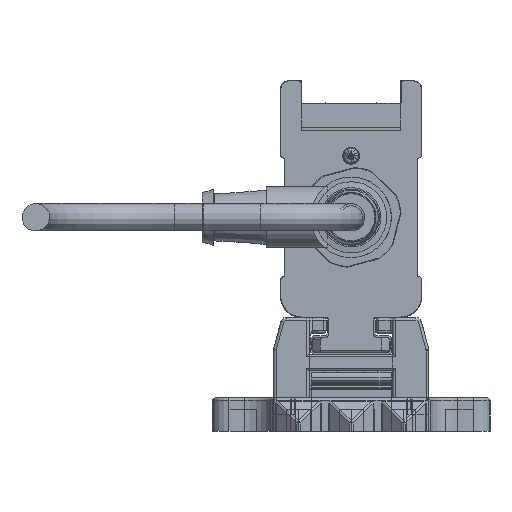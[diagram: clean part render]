
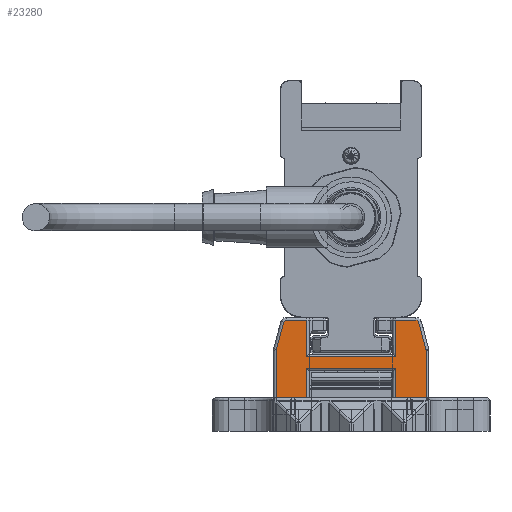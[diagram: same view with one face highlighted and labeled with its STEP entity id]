
A CAD part, left-side view. The second image highlights one B-rep face of the part: STEP entity #23280.
In plain terms, the highlighted planar face has unit normal (-1, 0, 0).
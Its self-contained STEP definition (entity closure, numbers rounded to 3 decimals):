
#23280=ADVANCED_FACE('', (#23290), #23300, .T.);
#141290=AXIS2_PLACEMENT_3D('Ax2Pl3d', #141300, #141310, #141320);
#141530=AXIS2_PLACEMENT_3D('Ax2Pl3d', #141540, #141550, #141560);
#146410=AXIS2_PLACEMENT_3D('Ax2Pl3d', #146420, #146430, #146440);
#151490=AXIS2_PLACEMENT_3D('Ax2Pl3d', #151500, #151510, #151520);
#161170=AXIS2_PLACEMENT_3D('Ax2Pl3d', #161180, #161190, #161200);
#583560=CARTESIAN_POINT('', (-747.669,-3606.345,
331.37));
#141300=CARTESIAN_POINT('HicPkt', (-747.669,-3605.379,
331.111));
#583570=CARTESIAN_POINT('', (-747.669,-3606.379,
331.111));
#583580=CARTESIAN_POINT('', (-747.669,-3605.037,
336.255));
#583600=CARTESIAN_POINT('', (-747.669,-3605.037,
336.255));
#583630=CARTESIAN_POINT('', (-747.669,-3604.554,
336.625));
#141540=CARTESIAN_POINT('HicPkt', (-747.669,-3604.554,
336.125));
#583850=CARTESIAN_POINT('', (-747.669,-3606.379,
322.625));
#583860=CARTESIAN_POINT('', (-747.669,-3600.881,
322.625));
#583870=CARTESIAN_POINT('', (-747.669,-3600.881,
322.625));
#583950=CARTESIAN_POINT('', (-747.669,-3584.881,
322.625));
#583960=CARTESIAN_POINT('', (-747.669,-3579.383,
322.625));
#583970=CARTESIAN_POINT('', (-747.669,-3579.383,
322.625));
#146420=CARTESIAN_POINT('HicPkt', (-747.669,-3581.209,
336.125));
#586440=CARTESIAN_POINT('', (-747.669,-3580.726,
336.255));
#586450=CARTESIAN_POINT('', (-747.669,-3581.209,
336.625));
#586460=CARTESIAN_POINT('', (-747.669,-3600.881,
330.025));
#586470=CARTESIAN_POINT('', (-747.669,-3584.881,
330.025));
#586480=CARTESIAN_POINT('', (-747.669,-3600.881,
330.025));
#586640=CARTESIAN_POINT('', (-747.669,-3600.881,
328.005));
#586650=CARTESIAN_POINT('', (-747.669,-3584.881,
328.005));
#586660=CARTESIAN_POINT('', (-747.669,-3584.881,
328.005));
#586670=CARTESIAN_POINT('', (-747.669,-3600.881,
328.005));
#586690=CARTESIAN_POINT('', (-747.669,-3584.881,
322.625));
#586700=CARTESIAN_POINT('', (-747.669,-3584.881,
330.025));
#586710=CARTESIAN_POINT('', (-747.669,-3584.881,
336.625));
#587560=CARTESIAN_POINT('', (-747.669,-3584.881,
336.625));
#587570=CARTESIAN_POINT('', (-747.669,-3580.726,
336.255));
#587580=CARTESIAN_POINT('', (-747.669,-3579.417,
331.37));
#587770=CARTESIAN_POINT('', (-747.669,-3579.383,
331.111));
#587780=CARTESIAN_POINT('', (-747.669,-3579.383,
331.111));
#151500=CARTESIAN_POINT('HicPkt', (-747.669,-3580.383,
331.111));
#588590=CARTESIAN_POINT('', (-747.669,-3606.379,
331.111));
#161180=CARTESIAN_POINT('HicPkt', (-747.669,-3604.554,
336.625));
#590390=CARTESIAN_POINT('', (-747.669,-3600.881,
336.625));
#590400=CARTESIAN_POINT('', (-747.669,-3600.881,
336.625));
#590410=CARTESIAN_POINT('', (-747.669,-3600.881,
336.625));
#675070=CIRCLE('Circle', #141290, 1.);
#675110=CIRCLE('Circle', #141530, 0.5);
#675690=CIRCLE('Circle', #146410, 0.5);
#676220=CIRCLE('Circle', #151490, 1.);
#141310=DIRECTION('Axis', (-1.,0.,
0.));
#141320=DIRECTION('RefDirection', (0.,
0.,-1.));
#942570=DIRECTION('', (0.,0.259,
0.966));
#141550=DIRECTION('Axis', (-1.,0.,
0.));
#141560=DIRECTION('RefDirection', (0.,
0.,-1.));
#942680=DIRECTION('', (0.,1.,0.));
#942720=DIRECTION('', (0.,1.,0.));
#146430=DIRECTION('Axis', (1.,0.,
0.));
#146440=DIRECTION('RefDirection', (0.,
0.,-1.));
#943910=DIRECTION('', (0.,-1.,0.));
#944010=DIRECTION('', (0.,1.,0.));
#944020=DIRECTION('', (0.,0.,1.));
#944040=DIRECTION('', (0.,0.,-1.));
#944050=DIRECTION('', (0.,0.,-1.));
#944480=DIRECTION('', (0.,-1.,0.));
#944490=DIRECTION('', (0.,-0.259,0.966));
#944580=DIRECTION('', (0.,0.,1.));
#151510=DIRECTION('Axis', (1.,0.,
0.));
#151520=DIRECTION('RefDirection', (0.,
0.,-1.));
#944950=DIRECTION('', (0.,0.,1.));
#161190=DIRECTION('Axis', (-1.,0.,
0.));
#161200=DIRECTION('RefDirection', (0.,
0.,-1.));
#945790=DIRECTION('', (0.,1.,0.));
#945800=DIRECTION('', (0.,0.,1.));
#1009400=EDGE_CURVE('', #1009410, #1009390, #675070, .T.);
#1009460=EDGE_CURVE('', #1009390, #1009440, #1009470, .T.);
#1009530=EDGE_CURVE('', #1009440, #1009520, #675110, .T.);
#1009980=EDGE_CURVE('', #1009970, #1009990, #1010000, .T.);
#1010140=EDGE_CURVE('', #1010130, #1010150, #1010160, .T.);
#1014500=EDGE_CURVE('', #1014510, #1014520, #675690, .T.);
#1014550=EDGE_CURVE('', #1014560, #1014570, #1014580, .T.);
#1014920=EDGE_CURVE('', #1014900, #1014930, #1014940, .T.);
#1014970=EDGE_CURVE('', #1009990, #1014900, #1014980, .T.);
#1015010=EDGE_CURVE('', #1014930, #1010130, #1015020, .T.);
#1015030=EDGE_CURVE('', #1015040, #1014560, #1015050, .T.);
#1016870=EDGE_CURVE('', #1014520, #1015040, #1016880, .T.);
#1016940=EDGE_CURVE('', #1016950, #1014510, #1016960, .T.);
#1017380=EDGE_CURVE('', #1010150, #1017390, #1017400, .T.);
#1017420=EDGE_CURVE('', #1017390, #1016950, #676220, .T.);
#1019130=EDGE_CURVE('', #1009970, #1009410, #1019140, .T.);
#1022940=EDGE_CURVE('', #1009520, #1022950, #1022960, .T.);
#1022970=EDGE_CURVE('', #1014570, #1022950, #1022980, .T.);
#1216860=EDGE_LOOP('Edge_loop', (#1216870,#1216880,#1216890,#1216900,
#1216910,#1216920,#1216930,#1216940,#1216950,#1216960,#1216970,
#1216980,#1216990,#1217000,#1217010,#1217020,#1217030,#1217040));
#23290=FACE_OUTER_BOUND('Face_outer_bound', #1216860, .T.);
#1009470=LINE('Line', #583600, #1391440);
#1010000=LINE('Line', #583860, #1391550);
#1010160=LINE('Line', #583960, #1391590);
#1014580=LINE('Line', #586460, #1392780);
#1014940=LINE('Line', #586650, #1392880);
#1014980=LINE('Line', #586670, #1392890);
#1015020=LINE('Line', #586690, #1392910);
#1015050=LINE('Line', #586700, #1392920);
#1016880=LINE('Line', #587560, #1393350);
#1016960=LINE('Line', #587570, #1393360);
#1017400=LINE('Line', #587770, #1393450);
#1019140=LINE('Line', #588590, #1393820);
#1022960=LINE('Line', #590390, #1394660);
#1022980=LINE('Line', #590410, #1394670);
#1216870=ORIENTED_EDGE('', *, *, #1022940, .T.);
#1216880=ORIENTED_EDGE('', *, *, #1022970, .F.);
#1216890=ORIENTED_EDGE('', *, *, #1014550, .F.);
#1216900=ORIENTED_EDGE('', *, *, #1015030, .F.);
#1216910=ORIENTED_EDGE('', *, *, #1016870, .F.);
#1216920=ORIENTED_EDGE('', *, *, #1014500, .F.);
#1216930=ORIENTED_EDGE('', *, *, #1016940, .F.);
#1216940=ORIENTED_EDGE('', *, *, #1017420, .F.);
#1216950=ORIENTED_EDGE('', *, *, #1017380, .F.);
#1216960=ORIENTED_EDGE('', *, *, #1010140, .F.);
#1216970=ORIENTED_EDGE('', *, *, #1015010, .F.);
#1216980=ORIENTED_EDGE('', *, *, #1014920, .F.);
#1216990=ORIENTED_EDGE('', *, *, #1014970, .F.);
#1217000=ORIENTED_EDGE('', *, *, #1009980, .F.);
#1217010=ORIENTED_EDGE('', *, *, #1019130, .T.);
#1217020=ORIENTED_EDGE('', *, *, #1009400, .T.);
#1217030=ORIENTED_EDGE('', *, *, #1009460, .T.);
#1217040=ORIENTED_EDGE('', *, *, #1009530, .T.);
#23300=PLANE('Plane', #161170);
#1391440=VECTOR('', #942570, 5.057);
#1391550=VECTOR('', #942680, 5.498);
#1391590=VECTOR('', #942720, 5.498);
#1392780=VECTOR('', #943910, 16.);
#1392880=VECTOR('', #944010, 16.);
#1392890=VECTOR('', #944020, 5.38);
#1392910=VECTOR('', #944040, 5.38);
#1392920=VECTOR('', #944050, 6.6);
#1393350=VECTOR('', #944480, 3.672);
#1393360=VECTOR('', #944490, 5.057);
#1393450=VECTOR('', #944580, 8.486);
#1393820=VECTOR('', #944950, 8.486);
#1394660=VECTOR('', #945790, 3.672);
#1394670=VECTOR('', #945800, 6.6);
#1009390=VERTEX_POINT('', #583560);
#1009410=VERTEX_POINT('', #583570);
#1009440=VERTEX_POINT('', #583580);
#1009520=VERTEX_POINT('', #583630);
#1009970=VERTEX_POINT('', #583850);
#1009990=VERTEX_POINT('', #583870);
#1010130=VERTEX_POINT('', #583950);
#1010150=VERTEX_POINT('', #583970);
#1014510=VERTEX_POINT('', #586440);
#1014520=VERTEX_POINT('', #586450);
#1014560=VERTEX_POINT('', #586470);
#1014570=VERTEX_POINT('', #586480);
#1014900=VERTEX_POINT('', #586640);
#1014930=VERTEX_POINT('', #586660);
#1015040=VERTEX_POINT('', #586710);
#1016950=VERTEX_POINT('', #587580);
#1017390=VERTEX_POINT('', #587780);
#1022950=VERTEX_POINT('', #590400);
